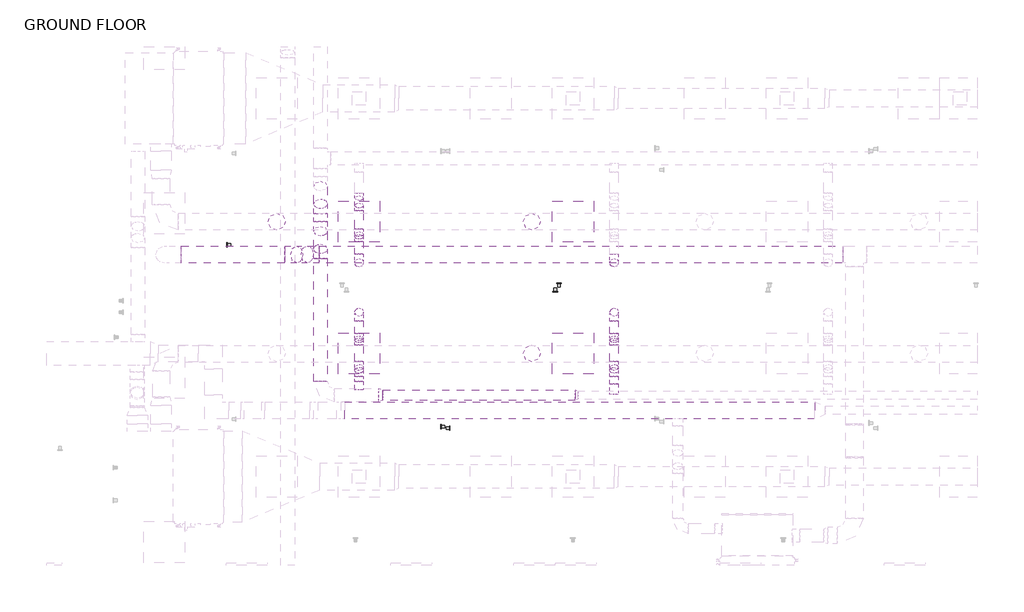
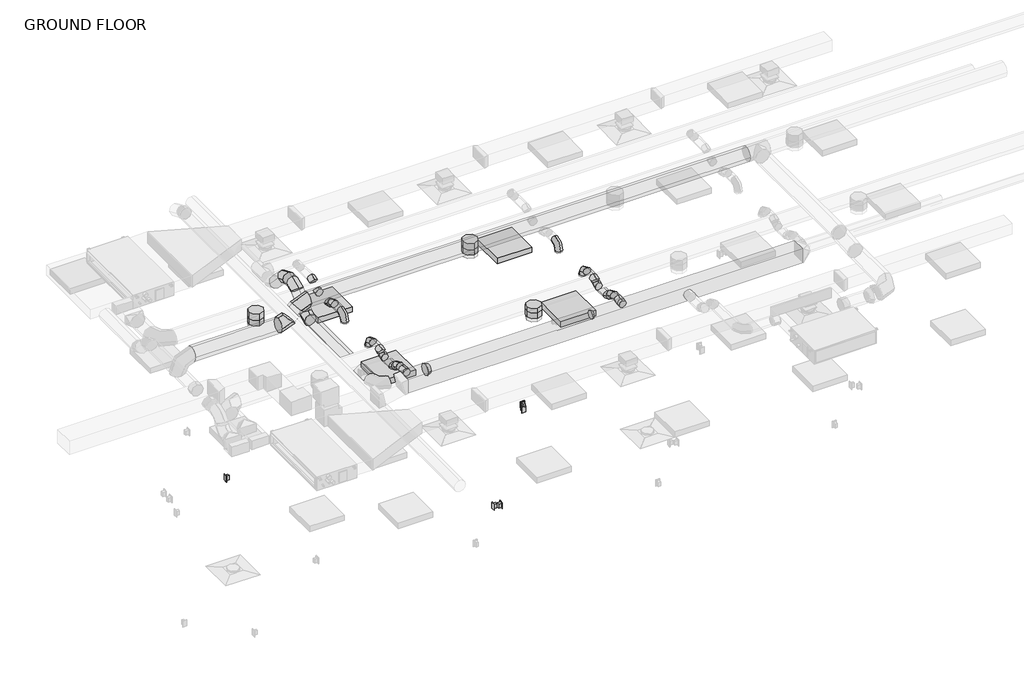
# One storey, part 3 of 21: 30 duct segments, 28 duct fittings, 5 proxies, 4 light fixtures.
"""IFC4 building model written with IfcOpenShell, lengths in millimetres."""

from ifc_helpers import new_model, si_unit, point, frame, frame_2d, origin, place, context, project, spatial, polyline, circle_curve, trimmed, segment, composite_curve, outline, extrude, transform, mapped, element, save
from components import duplex_receptacle_countertop_10251bba, round_elbow_1_d_c80420c1, round_elbow_1_d_ab3aa7ba, round_elbow_1_d_e3dc691b, round_elbow_1_d_ea3dccb8, round_elbow_1_d_538d8ec8, round_elbow_1_d_400cd2ab, round_elbow_1_d_88736f48, round_elbow_1_d_3f34665d, round_takeoff_standard_161717b3, round_takeoff_standard_c386a54e, round_takeoff_standard_86d024ab, round_takeoff_standard_cae0fe22, round_transition_angle_45_degree_f2e0231c, round_transition_angle_45_degree_d2c7fbb0, troffer_corner_insert_2x2_3lamp_e67c7f8f

model = new_model("IFC4")

# Units and contexts
model_context = context("Model", 3, world=origin())
ifc_project = project(units=[si_unit("LENGTHUNIT", "METRE", prefix="MILLI")], contexts=[model_context])

# Site, building, storey
site = spatial("IfcSite", under=ifc_project)
building = spatial("IfcBuilding", under=site)
storey = spatial("IfcBuildingStorey", under=building, Name="GROUND FLOOR", Elevation=30480.0)

# Proxies
placement = place(None, origin())
duplex_receptacle_countertop_shape = duplex_receptacle_countertop_10251bba(model_context)
element("IfcBuildingElementProxy", 1, Name="Duplex Receptacle : Standard", ObjectType="Duplex Receptacle : Standard", at=placement, inside=storey, context=model_context, shape_type="MappedRepresentation", body=[
    mapped(duplex_receptacle_countertop_shape, transform((-2751.7704607, -3487.800279, 30937.2), x_axis=(0.0, -1.0, 0.0), y_axis=(0.0, 0.0, 1.0), z_axis=(-1.0, 0.0, 0.0))),
])
element("IfcBuildingElementProxy", 2, Name="Duplex Receptacle : Standard", ObjectType="Duplex Receptacle : Standard", at=placement, inside=storey, context=model_context, shape_type="MappedRepresentation", body=[
    mapped(duplex_receptacle_countertop_shape, transform((-2627.9454607, -3509.8392868, 30937.2), x_axis=(0.0, 1.0, 0.0), y_axis=(0.0, 0.0, 1.0), z_axis=(1.0, 0.0, 0.0))),
])
element("IfcBuildingElementProxy", 3, Name="Duplex Receptacle : Standard", ObjectType="Duplex Receptacle : Standard", at=placement, inside=storey, context=model_context, shape_type="MappedRepresentation", body=[
    mapped(duplex_receptacle_countertop_shape, transform((-1062.3593132, -1484.9054995, 30937.2), x_axis=(1.0, 0.0, 0.0), y_axis=(0.0, 0.0, 1.0), z_axis=(0.0, -1.0, 0.0))),
])
element("IfcBuildingElementProxy", 4, Name="Duplex Receptacle : Standard", ObjectType="Duplex Receptacle : Standard", at=placement, inside=storey, context=model_context, shape_type="MappedRepresentation", body=[
    mapped(duplex_receptacle_countertop_shape, transform((-1007.2617938, -1361.0804995, 30937.2), x_axis=(-1.0, 0.0, 0.0), y_axis=(0.0, 0.0, 1.0), z_axis=(0.0, 1.0, 0.0))),
])
element("IfcBuildingElementProxy", 5, Name="Duplex Receptacle : Standard", ObjectType="Duplex Receptacle : Standard", at=placement, inside=storey, context=model_context, shape_type="MappedRepresentation", body=[
    mapped(duplex_receptacle_countertop_shape, transform((-5923.5954607, -788.0218283, 30937.2), x_axis=(0.0, -1.0, 0.0), y_axis=(0.0, 0.0, 1.0), z_axis=(-1.0, 0.0, 0.0))),
])

# Duct fittings
round_elbow_1_d_shape = round_elbow_1_d_c80420c1(model_context)
element("IfcDuctFitting", 6, ObjectType="Round Elbow : 1 D", at=placement, inside=storey, context=model_context, shape_type="MappedRepresentation", body=[
    mapped(round_elbow_1_d_shape, transform((-3970.9704607, -1056.2804995, 33477.2), x_axis=(0.0, -1.0, 0.0), y_axis=(0.0, 0.0, -1.0), z_axis=(1.0, 0.0, 0.0))),
])
element("IfcDuctFitting", 7, ObjectType="Round Elbow : 1 D", at=placement, inside=storey, context=model_context, shape_type="MappedRepresentation", body=[
    mapped(round_elbow_1_d_shape, transform((-189.5454607, -1056.2804995, 33477.2), x_axis=(0.0, -1.0, 0.0), y_axis=(0.0, 0.0, -1.0), z_axis=(1.0, 0.0, 0.0))),
])
round_elbow_1_d_2_shape = round_elbow_1_d_ab3aa7ba(model_context)
element("IfcDuctFitting", 8, ObjectType="Round Elbow : 1 D", at=placement, inside=storey, context=model_context, shape_type="MappedRepresentation", body=[
    mapped(round_elbow_1_d_2_shape, transform((-4541.976464, -909.8231584, 33528.0), x_axis=(0.0, 1.0, 0.0), y_axis=(0.0, 0.0, 1.0), z_axis=(1.0, 0.0, 0.0))),
])
element("IfcDuctFitting", 9, ObjectType="Round Elbow : 1 D", at=placement, inside=storey, context=model_context, shape_type="MappedRepresentation", body=[
    mapped(round_elbow_1_d_2_shape, transform((-4541.976464, -528.8231584, 33909.0), x_axis=(0.0, 0.7071067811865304, 0.7071067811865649), y_axis=(0.0, 0.7071067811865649, -0.7071067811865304), z_axis=(-1.0, 0.0, 0.0))),
])
round_elbow_1_d_3_shape = round_elbow_1_d_e3dc691b(model_context)
element("IfcDuctFitting", 10, ObjectType="Round Elbow : 1 D", at=placement, inside=storey, context=model_context, shape_type="MappedRepresentation", body=[
    mapped(round_elbow_1_d_3_shape, transform((-3970.9704607, -2688.8145579, 33528.0), x_axis=(0.0, 1.0, 0.0), y_axis=(0.0, 0.0, -1.0), z_axis=(-1.0, 0.0, 0.0))),
])
element("IfcDuctFitting", 11, ObjectType="Round Elbow : 1 D", at=placement, inside=storey, context=model_context, shape_type="MappedRepresentation", body=[
    mapped(round_elbow_1_d_3_shape, transform((-3970.9704607, -2571.0260053, 33410.2114474), x_axis=(0.0, 0.7071067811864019, -0.7071067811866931), y_axis=(0.0, 0.7071067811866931, 0.7071067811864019), z_axis=(1.0, 0.0, 0.0))),
])
element("IfcDuctFitting", 12, ObjectType="Round Elbow : 1 D", at=placement, inside=storey, context=model_context, shape_type="MappedRepresentation", body=[
    mapped(round_elbow_1_d_3_shape, transform((-189.5454607, -2571.0260053, 33410.2114474), x_axis=(0.0, 0.7071067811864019, -0.7071067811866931), y_axis=(0.0, 0.7071067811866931, 0.7071067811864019), z_axis=(1.0, 0.0, 0.0))),
])
element("IfcDuctFitting", 13, ObjectType="Round Elbow : 1 D", at=placement, inside=storey, context=model_context, shape_type="MappedRepresentation", body=[
    mapped(round_elbow_1_d_3_shape, transform((-189.5454607, -2688.8145579, 33528.0), x_axis=(0.0, -0.707106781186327, 0.7071067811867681), y_axis=(0.0, -0.7071067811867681, -0.707106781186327), z_axis=(1.0, 0.0, 0.0))),
])
round_elbow_1_d_4_shape = round_elbow_1_d_ea3dccb8(model_context)
element("IfcDuctFitting", 14, ObjectType="Round Elbow : 1 D", at=placement, inside=storey, context=model_context, shape_type="MappedRepresentation", body=[
    mapped(round_elbow_1_d_4_shape, transform((-4664.8198591, -932.4554995, 33883.6), x_axis=(-1.0, 0.0, 0.0), y_axis=(0.0, 0.0, -1.0), z_axis=(0.0, -1.0, 0.0))),
])
element("IfcDuctFitting", 15, ObjectType="Round Elbow : 1 D", at=placement, inside=storey, context=model_context, shape_type="MappedRepresentation", body=[
    mapped(round_elbow_1_d_4_shape, transform((-4969.6198591, -932.4554995, 33578.8), x_axis=(-0.7071067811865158, 0.0, -0.7071067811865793), y_axis=(-0.7071067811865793, 0.0, 0.7071067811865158), z_axis=(0.0, 1.0, 0.0))),
])
round_elbow_1_d_5_shape = round_elbow_1_d_538d8ec8(model_context)
element("IfcDuctFitting", 16, ObjectType="Round Elbow : 1 D", at=placement, inside=storey, context=model_context, shape_type="MappedRepresentation", body=[
    mapped(round_elbow_1_d_5_shape, transform((-3970.9704607, -703.4357216, 33477.2), x_axis=(0.0, 1.0, 0.0), y_axis=(0.0, 0.0, -1.0), z_axis=(-1.0, 0.0, 0.0))),
])
element("IfcDuctFitting", 17, ObjectType="Round Elbow : 1 D", at=placement, inside=storey, context=model_context, shape_type="MappedRepresentation", body=[
    mapped(round_elbow_1_d_5_shape, transform((-3970.9704607, -599.403412, 33404.3557926), x_axis=(0.0, 0.8191520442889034, -0.5735764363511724), y_axis=(0.0, 0.5735764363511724, 0.8191520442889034), z_axis=(1.0, 0.0, 0.0))),
])
element("IfcDuctFitting", 18, ObjectType="Round Elbow : 1 D", at=placement, inside=storey, context=model_context, shape_type="MappedRepresentation", body=[
    mapped(round_elbow_1_d_5_shape, transform((-3970.9704607, -240.3054995, 33404.3557926), x_axis=(0.0, 1.0, 0.0), y_axis=(0.0, 0.0, 1.0), z_axis=(1.0, 0.0, 0.0))),
])
element("IfcDuctFitting", 19, ObjectType="Round Elbow : 1 D", at=placement, inside=storey, context=model_context, shape_type="MappedRepresentation", body=[
    mapped(round_elbow_1_d_5_shape, transform((-3970.9704607, -2238.2198452, 33410.2114474), x_axis=(0.0, -0.8191520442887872, -0.5735764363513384), y_axis=(0.0, -0.5735764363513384, 0.8191520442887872), z_axis=(-1.0, 0.0, 0.0))),
])
element("IfcDuctFitting", 20, ObjectType="Round Elbow : 1 D", at=placement, inside=storey, context=model_context, shape_type="MappedRepresentation", body=[
    mapped(round_elbow_1_d_5_shape, transform((-3970.9704607, -63.7232711, 33528.0), x_axis=(0.0, 0.8191520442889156, 0.5735764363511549), y_axis=(0.0, 0.5735764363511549, -0.8191520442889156), z_axis=(-1.0, 0.0, 0.0))),
])
element("IfcDuctFitting", 21, ObjectType="Round Elbow : 1 D", at=placement, inside=storey, context=model_context, shape_type="MappedRepresentation", body=[
    mapped(round_elbow_1_d_5_shape, transform((-189.5454607, -2238.2198452, 33410.2114474), x_axis=(0.0, -0.8191520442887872, -0.5735764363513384), y_axis=(0.0, -0.5735764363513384, 0.8191520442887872), z_axis=(-1.0, 0.0, 0.0))),
])
round_elbow_1_d_6_shape = round_elbow_1_d_400cd2ab(model_context)
element("IfcDuctFitting", 22, ObjectType="Round Elbow : 1 D", at=placement, inside=storey, context=model_context, shape_type="MappedRepresentation", body=[
    mapped(round_elbow_1_d_6_shape, transform((-3970.9704607, -1789.7054995, 33477.2), x_axis=(0.0, 1.0, 0.0), y_axis=(0.0, 0.0, 1.0), z_axis=(1.0, 0.0, 0.0))),
])
element("IfcDuctFitting", 23, ObjectType="Round Elbow : 1 D", at=placement, inside=storey, context=model_context, shape_type="MappedRepresentation", body=[
    mapped(round_elbow_1_d_6_shape, transform((-189.5454607, -1789.7054995, 33477.2), x_axis=(0.0, 1.0, 0.0), y_axis=(0.0, 0.0, 1.0), z_axis=(1.0, 0.0, 0.0))),
])
round_elbow_1_d_7_shape = round_elbow_1_d_88736f48(model_context)
element("IfcDuctFitting", 24, ObjectType="Round Elbow : 1 D", at=placement, inside=storey, context=model_context, shape_type="MappedRepresentation", body=[
    mapped(round_elbow_1_d_7_shape, transform((-3970.9704607, -2142.5502773, 33477.2), x_axis=(0.0, -1.0, 0.0), y_axis=(0.0, 0.0, 1.0), z_axis=(-1.0, 0.0, 0.0))),
])
element("IfcDuctFitting", 25, ObjectType="Round Elbow : 1 D", at=placement, inside=storey, context=model_context, shape_type="MappedRepresentation", body=[
    mapped(round_elbow_1_d_7_shape, transform((-189.5454607, -2142.5502773, 33477.2), x_axis=(0.0, -1.0, 0.0), y_axis=(0.0, 0.0, 1.0), z_axis=(-1.0, 0.0, 0.0))),
])
round_elbow_1_d_8_shape = round_elbow_1_d_3f34665d(model_context)
element("IfcDuctFitting", 26, ObjectType="Round Elbow : 1 D", at=placement, inside=storey, context=model_context, shape_type="MappedRepresentation", body=[
    mapped(round_elbow_1_d_8_shape, transform((-4541.976464, -241.4549626, 33909.0), x_axis=(0.0, -0.7071067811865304, 0.7071067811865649), y_axis=(0.0, 0.7071067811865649, 0.7071067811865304), z_axis=(-1.0, 0.0, 0.0))),
])
round_takeoff_standard_shape = round_takeoff_standard_161717b3(model_context)
element("IfcDuctFitting", 27, ObjectType="Round Takeoff : Standard", at=placement, inside=storey, context=model_context, shape_type="MappedRepresentation", body=[
    mapped(round_takeoff_standard_shape, transform((-1408.7454607, -2399.3054995, 33490.69375), x_axis=(0.0, 0.0, -1.0), y_axis=(-1.0, 0.0, 0.0), z_axis=(0.0, 1.0, 0.0))),
])
round_takeoff_standard_2_shape = round_takeoff_standard_c386a54e(model_context)
element("IfcDuctFitting", 28, ObjectType="Round Takeoff : Standard", at=placement, inside=storey, context=model_context, shape_type="MappedRepresentation", body=[
    mapped(round_takeoff_standard_2_shape, transform((-1408.7454607, -446.6804995, 33490.69375), x_axis=(0.0, 0.0, -1.0), y_axis=(-1.0, 0.0, 0.0), z_axis=(0.0, 1.0, 0.0))),
])
element("IfcDuctFitting", 29, ObjectType="Round Takeoff : Standard", at=placement, inside=storey, context=model_context, shape_type="MappedRepresentation", body=[
    mapped(round_takeoff_standard_2_shape, transform((-5190.1704607, -446.6804995, 33490.69375), x_axis=(0.0, 0.0, -1.0), y_axis=(-1.0, 0.0, 0.0), z_axis=(0.0, 1.0, 0.0))),
])
round_takeoff_standard_3_shape = round_takeoff_standard_86d024ab(model_context)
element("IfcDuctFitting", 30, ObjectType="Round Takeoff : Standard", at=placement, inside=storey, context=model_context, shape_type="MappedRepresentation", body=[
    mapped(round_takeoff_standard_3_shape, transform((-3970.9704607, -2917.4145579, 33528.0), x_axis=(0.0, 1.0, 0.0), y_axis=(1.0, 0.0, 0.0), z_axis=(0.0, 0.0, -1.0))),
])
round_takeoff_standard_4_shape = round_takeoff_standard_cae0fe22(model_context)
element("IfcDuctFitting", 31, ObjectType="Round Takeoff : Standard", at=placement, inside=storey, context=model_context, shape_type="MappedRepresentation", body=[
    mapped(round_takeoff_standard_4_shape, transform((-189.5454607, -2955.5145579, 33528.0), x_axis=(0.0, 1.0, 0.0), y_axis=(1.0, 0.0, 0.0), z_axis=(0.0, 0.0, -1.0))),
])
round_transition_angle_45_degree_shape = round_transition_angle_45_degree_f2e0231c(model_context)
element("IfcDuctFitting", 32, ObjectType="Round Transition - Angle : 45 Degree", at=placement, inside=storey, context=model_context, shape_type="MappedRepresentation", body=[
    mapped(round_transition_angle_45_degree_shape, transform((-731.976464, -3019.0145579, 33528.0), x_axis=(-1.0, 0.0, 0.0), y_axis=(0.0, -1.0, 0.0), z_axis=(0.0, 0.0, 1.0))),
])
round_transition_angle_45_degree_2_shape = round_transition_angle_45_degree_d2c7fbb0(model_context)
element("IfcDuctFitting", 33, ObjectType="Round Transition - Angle : 45 Degree", at=placement, inside=storey, context=model_context, shape_type="MappedRepresentation", body=[
    mapped(round_transition_angle_45_degree_2_shape, transform((-3681.8784098, -3019.0145579, 33528.0), x_axis=(1.0, 0.0, 0.0), y_axis=(0.0, 1.0, 0.0), z_axis=(0.0, 0.0, 1.0))),
])

# Duct segments
element("IfcDuctSegment", 34, ObjectType="Radius Elbows / Taps", at=placement, inside=storey, context=model_context, shape_type="SweptSolid", body=[
    extrude(outline(polyline([(2787.255189, -3118.6216457), (2787.255189, -3372.6216457), (-4184.5880259, -3372.6216457), (-4184.5880259, -3118.6216457), (2787.255189, -3118.6216457)])), frame((0.0, 0.0, 33475.867541), z_axis=(0.0, 0.0, 1.0), x_axis=(1.0, 0.0, 0.0)), (0.0, 0.0, 1.0), 254.0),
])
element("IfcDuctSegment", 35, ObjectType="Taps / Short Radius", at=placement, inside=storey, context=model_context, shape_type="SweptSolid", body=[
    extrude(outline(composite_curve([segment(trimmed(circle_curve(frame_2d((-932.4554995, 33883.6)), 127.0), [point((-805.4554995, 33883.6))], [point((-932.4554995, 33756.6))], False, "CARTESIAN"), True, "CONTINUOUS"), segment(trimmed(circle_curve(frame_2d((-932.4554995, 33883.6)), 127.0), [point((-932.4554995, 33756.6))], [point((-1059.4554995, 33883.6))], False, "CARTESIAN"), True, "CONTINUOUS"), segment(trimmed(circle_curve(frame_2d((-932.4554995, 33883.6)), 127.0), [point((-1059.4554995, 33883.6))], [point((-932.4554995, 34010.6))], False, "CARTESIAN"), True, "CONTINUOUS"), segment(trimmed(circle_curve(frame_2d((-932.4554995, 33883.6)), 127.0), [point((-932.4554995, 34010.6))], [point((-805.4554995, 33883.6))], False, "CARTESIAN"), True, "CONTINUOUS")], self_intersect=False)), frame((-4559.6096142, 0.0, 0.0), z_axis=(1.0, 0.0, 0.0), x_axis=(0.0, 1.0, 0.0)), (0.0, 0.0, 1.0), 7755.0178177),
])
element("IfcDuctSegment", 36, ObjectType="Taps / Short Radius", at=placement, inside=storey, context=model_context, shape_type="SweptSolid", body=[
    extrude(outline(composite_curve([segment(trimmed(circle_curve(frame_2d((-932.4554995, 33578.8)), 127.0), [point((-805.4554995, 33578.8))], [point((-932.4554995, 33451.8))], False, "CARTESIAN"), True, "CONTINUOUS"), segment(trimmed(circle_curve(frame_2d((-932.4554995, 33578.8)), 127.0), [point((-932.4554995, 33451.8))], [point((-1059.4554995, 33578.8))], False, "CARTESIAN"), True, "CONTINUOUS"), segment(trimmed(circle_curve(frame_2d((-932.4554995, 33578.8)), 127.0), [point((-1059.4554995, 33578.8))], [point((-932.4554995, 33705.8))], False, "CARTESIAN"), True, "CONTINUOUS"), segment(trimmed(circle_curve(frame_2d((-932.4554995, 33578.8)), 127.0), [point((-932.4554995, 33705.8))], [point((-805.4554995, 33578.8))], False, "CARTESIAN"), True, "CONTINUOUS")], self_intersect=False)), frame((-6603.0454607, 0.0, 0.0), z_axis=(1.0, 0.0, 0.0), x_axis=(0.0, 1.0, 0.0)), (0.0, 0.0, 1.0), 1528.2153568),
])
element("IfcDuctSegment", 37, ObjectType="Taps / Short Radius", at=placement, inside=storey, context=model_context, shape_type="SweptSolid", body=[
    extrude(outline(composite_curve([segment(trimmed(circle_curve(frame_2d((0.0, -127.0)), 127.0), [point((0.0, 0.0))], [point((127.0, -127.0))], False, "CARTESIAN"), True, "CONTINUOUS"), segment(trimmed(circle_curve(frame_2d((0.0, -127.0)), 127.0), [point((127.0, -127.0))], [point((0.0, -254.0))], False, "CARTESIAN"), True, "CONTINUOUS"), segment(trimmed(circle_curve(frame_2d((0.0, -127.0)), 127.0), [point((0.0, -254.0))], [point((-127.0, -127.0))], False, "CARTESIAN"), True, "CONTINUOUS"), segment(trimmed(circle_curve(frame_2d((0.0, -127.0)), 127.0), [point((-127.0, -127.0))], [point((0.0, 0.0))], False, "CARTESIAN"), True, "CONTINUOUS")], self_intersect=False)), frame((-4895.2249815, -805.4554995, 33653.1948776), z_axis=(0.7071067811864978, 0.0, 0.7071067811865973), x_axis=(0.7071067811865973, 0.0, -0.7071067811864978)), (0.0, 0.0, 1.0), 220.6318041),
])
element("IfcDuctSegment", 38, ObjectType="Taps / Short Radius", at=placement, inside=storey, context=model_context, shape_type="SweptSolid", body=[
    extrude(outline(composite_curve([segment(trimmed(circle_curve(frame_2d((-1408.7454607, -2399.3054995)), 127.0), [point((-1535.7454607, -2399.3054995))], [point((-1408.7454607, -2272.3054995))], False, "CARTESIAN"), True, "CONTINUOUS"), segment(trimmed(circle_curve(frame_2d((-1408.7454607, -2399.3054995)), 127.0), [point((-1408.7454607, -2272.3054995))], [point((-1281.7454607, -2399.3054995))], False, "CARTESIAN"), True, "CONTINUOUS"), segment(trimmed(circle_curve(frame_2d((-1408.7454607, -2399.3054995)), 127.0), [point((-1281.7454607, -2399.3054995))], [point((-1408.7454607, -2526.3054995))], False, "CARTESIAN"), True, "CONTINUOUS"), segment(trimmed(circle_curve(frame_2d((-1408.7454607, -2399.3054995)), 127.0), [point((-1408.7454607, -2526.3054995))], [point((-1535.7454607, -2399.3054995))], False, "CARTESIAN"), True, "CONTINUOUS")], self_intersect=False)), frame((0.0, 0.0, 33324.8), z_axis=(0.0, 0.0, 1.0), x_axis=(1.0, 0.0, 0.0)), (0.0, 0.0, 1.0), 64.29375),
])
element("IfcDuctSegment", 39, ObjectType="Taps / Short Radius", at=placement, inside=storey, context=model_context, shape_type="SweptSolid", body=[
    extrude(outline(composite_curve([segment(trimmed(circle_curve(frame_2d((-1408.7454607, -446.6804995)), 127.0), [point((-1535.7454607, -446.6804995))], [point((-1408.7454607, -319.6804995))], False, "CARTESIAN"), True, "CONTINUOUS"), segment(trimmed(circle_curve(frame_2d((-1408.7454607, -446.6804995)), 127.0), [point((-1408.7454607, -319.6804995))], [point((-1281.7454607, -446.6804995))], False, "CARTESIAN"), True, "CONTINUOUS"), segment(trimmed(circle_curve(frame_2d((-1408.7454607, -446.6804995)), 127.0), [point((-1281.7454607, -446.6804995))], [point((-1408.7454607, -573.6804995))], False, "CARTESIAN"), True, "CONTINUOUS"), segment(trimmed(circle_curve(frame_2d((-1408.7454607, -446.6804995)), 127.0), [point((-1408.7454607, -573.6804995))], [point((-1535.7454607, -446.6804995))], False, "CARTESIAN"), True, "CONTINUOUS")], self_intersect=False)), frame((0.0, 0.0, 33324.8), z_axis=(0.0, 0.0, 1.0), x_axis=(1.0, 0.0, 0.0)), (0.0, 0.0, 1.0), 64.29375),
])
element("IfcDuctSegment", 40, ObjectType="Taps / Short Radius", at=placement, inside=storey, context=model_context, shape_type="SweptSolid", body=[
    extrude(outline(composite_curve([segment(trimmed(circle_curve(frame_2d((-5190.1704607, -446.6804995)), 127.0), [point((-5317.1704607, -446.6804995))], [point((-5190.1704607, -319.6804995))], False, "CARTESIAN"), True, "CONTINUOUS"), segment(trimmed(circle_curve(frame_2d((-5190.1704607, -446.6804995)), 127.0), [point((-5190.1704607, -319.6804995))], [point((-5063.1704607, -446.6804995))], False, "CARTESIAN"), True, "CONTINUOUS"), segment(trimmed(circle_curve(frame_2d((-5190.1704607, -446.6804995)), 127.0), [point((-5063.1704607, -446.6804995))], [point((-5190.1704607, -573.6804995))], False, "CARTESIAN"), True, "CONTINUOUS"), segment(trimmed(circle_curve(frame_2d((-5190.1704607, -446.6804995)), 127.0), [point((-5190.1704607, -573.6804995))], [point((-5317.1704607, -446.6804995))], False, "CARTESIAN"), True, "CONTINUOUS")], self_intersect=False)), frame((0.0, 0.0, 33324.8), z_axis=(0.0, 0.0, 1.0), x_axis=(1.0, 0.0, 0.0)), (0.0, 0.0, 1.0), 64.29375),
])
element("IfcDuctSegment", 41, ObjectType="Taps / Short Radius", at=placement, inside=storey, context=model_context, shape_type="SweptSolid", body=[
    extrude(outline(composite_curve([segment(trimmed(circle_curve(frame_2d((-3970.9704607, -1056.2804995)), 63.5), [point((-4034.4704607, -1056.2804995))], [point((-3970.9704607, -992.7804995))], False, "CARTESIAN"), True, "CONTINUOUS"), segment(trimmed(circle_curve(frame_2d((-3970.9704607, -1056.2804995)), 63.5), [point((-3970.9704607, -992.7804995))], [point((-3907.4704607, -1056.2804995))], False, "CARTESIAN"), True, "CONTINUOUS"), segment(trimmed(circle_curve(frame_2d((-3970.9704607, -1056.2804995)), 63.5), [point((-3907.4704607, -1056.2804995))], [point((-3970.9704607, -1119.7804995))], False, "CARTESIAN"), True, "CONTINUOUS"), segment(trimmed(circle_curve(frame_2d((-3970.9704607, -1056.2804995)), 63.5), [point((-3970.9704607, -1119.7804995))], [point((-4034.4704607, -1056.2804995))], False, "CARTESIAN"), True, "CONTINUOUS")], self_intersect=False)), frame((0.0, 0.0, 33324.8), z_axis=(0.0, 0.0, 1.0), x_axis=(1.0, 0.0, 0.0)), (0.0, 0.0, 1.0), 25.4),
])
element("IfcDuctSegment", 42, ObjectType="Taps / Short Radius", at=placement, inside=storey, context=model_context, shape_type="SweptSolid", body=[
    extrude(outline(composite_curve([segment(trimmed(circle_curve(frame_2d((-3019.0145579, 33528.0)), 76.2), [point((-2942.8145579, 33528.0))], [point((-3019.0145579, 33451.8))], False, "CARTESIAN"), True, "CONTINUOUS"), segment(trimmed(circle_curve(frame_2d((-3019.0145579, 33528.0)), 76.2), [point((-3019.0145579, 33451.8))], [point((-3095.2145579, 33528.0))], False, "CARTESIAN"), True, "CONTINUOUS"), segment(trimmed(circle_curve(frame_2d((-3019.0145579, 33528.0)), 76.2), [point((-3095.2145579, 33528.0))], [point((-3019.0145579, 33604.2))], False, "CARTESIAN"), True, "CONTINUOUS"), segment(trimmed(circle_curve(frame_2d((-3019.0145579, 33528.0)), 76.2), [point((-3019.0145579, 33604.2))], [point((-2942.8145579, 33528.0))], False, "CARTESIAN"), True, "CONTINUOUS")], self_intersect=False)), frame((-3620.5573854, 0.0, 0.0), z_axis=(1.0, 0.0, 0.0), x_axis=(0.0, 1.0, 0.0)), (0.0, 0.0, 1.0), 2857.9204091),
])
element("IfcDuctSegment", 43, ObjectType="Taps / Short Radius", at=placement, inside=storey, context=model_context, shape_type="SweptSolid", body=[
    extrude(outline(composite_curve([segment(trimmed(circle_curve(frame_2d((33528.0, -4541.976464)), 101.6), [point((33528.0, -4440.376464))], [point((33629.6, -4541.976464))], False, "CARTESIAN"), True, "CONTINUOUS"), segment(trimmed(circle_curve(frame_2d((33528.0, -4541.976464)), 101.6), [point((33629.6, -4541.976464))], [point((33528.0, -4643.576464))], False, "CARTESIAN"), True, "CONTINUOUS"), segment(trimmed(circle_curve(frame_2d((33528.0, -4541.976464)), 101.6), [point((33528.0, -4643.576464))], [point((33426.4, -4541.976464))], False, "CARTESIAN"), True, "CONTINUOUS"), segment(trimmed(circle_curve(frame_2d((33528.0, -4541.976464)), 101.6), [point((33426.4, -4541.976464))], [point((33528.0, -4440.376464))], False, "CARTESIAN"), True, "CONTINUOUS")], self_intersect=False)), frame((0.0, -2815.8145579, 0.0), z_axis=(0.0, 1.0, 0.0), x_axis=(0.0, 0.0, 1.0)), (0.0, 0.0, 1.0), 1821.8232036),
])
element("IfcDuctSegment", 44, ObjectType="Taps / Short Radius", at=placement, inside=storey, context=model_context, shape_type="SweptSolid", body=[
    extrude(outline(composite_curve([segment(trimmed(circle_curve(frame_2d((33909.0, -4541.976464)), 101.6), [point((33909.0, -4440.376464))], [point((34010.6, -4541.976464))], False, "CARTESIAN"), True, "CONTINUOUS"), segment(trimmed(circle_curve(frame_2d((33909.0, -4541.976464)), 101.6), [point((34010.6, -4541.976464))], [point((33909.0, -4643.576464))], False, "CARTESIAN"), True, "CONTINUOUS"), segment(trimmed(circle_curve(frame_2d((33909.0, -4541.976464)), 101.6), [point((33909.0, -4643.576464))], [point((33807.4, -4541.976464))], False, "CARTESIAN"), True, "CONTINUOUS"), segment(trimmed(circle_curve(frame_2d((33909.0, -4541.976464)), 101.6), [point((33807.4, -4541.976464))], [point((33909.0, -4440.376464))], False, "CARTESIAN"), True, "CONTINUOUS")], self_intersect=False)), frame((0.0, -444.6549626, 0.0), z_axis=(0.0, 1.0, 0.0), x_axis=(0.0, 0.0, 1.0)), (0.0, 0.0, 1.0), 119.0318041),
])
element("IfcDuctSegment", 45, ObjectType="Taps / Short Radius", at=placement, inside=storey, context=model_context, shape_type="SweptSolid", body=[
    extrude(outline(composite_curve([segment(trimmed(circle_curve(frame_2d((0.0, 101.5999999)), 101.6), [point((101.6, 101.5999999))], [point((0.0, 0.0))], False, "CARTESIAN"), True, "CONTINUOUS"), segment(trimmed(circle_curve(frame_2d((0.0, 101.5999999)), 101.6), [point((0.0, 0.0))], [point((-101.6, 101.5999999))], False, "CARTESIAN"), True, "CONTINUOUS"), segment(trimmed(circle_curve(frame_2d((0.0, 101.5999999)), 101.6), [point((-101.6, 101.5999999))], [point((0.0, 203.1999999))], False, "CARTESIAN"), True, "CONTINUOUS"), segment(trimmed(circle_curve(frame_2d((0.0, 101.5999999)), 101.6), [point((0.0, 203.1999999))], [point((101.6, 101.5999999))], False, "CARTESIAN"), True, "CONTINUOUS")], self_intersect=False)), frame((-4541.976464, -922.1493053, 33659.357951), z_axis=(0.0, 0.7071067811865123, 0.7071067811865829), x_axis=(1.0, 0.0, 0.0)), (0.0, 0.0, 1.0), 370.4789755),
])
element("IfcDuctSegment", 46, ObjectType="Taps / Short Radius", at=placement, inside=storey, context=model_context, shape_type="SweptSolid", body=[
    extrude(outline(composite_curve([segment(trimmed(circle_curve(frame_2d((33477.2, -3970.9704607)), 63.5), [point((33477.2, -3907.4704607))], [point((33540.7, -3970.9704607))], False, "CARTESIAN"), True, "CONTINUOUS"), segment(trimmed(circle_curve(frame_2d((33477.2, -3970.9704607)), 63.5), [point((33540.7, -3970.9704607))], [point((33477.2, -4034.4704607))], False, "CARTESIAN"), True, "CONTINUOUS"), segment(trimmed(circle_curve(frame_2d((33477.2, -3970.9704607)), 63.5), [point((33477.2, -4034.4704607))], [point((33413.7, -3970.9704607))], False, "CARTESIAN"), True, "CONTINUOUS"), segment(trimmed(circle_curve(frame_2d((33477.2, -3970.9704607)), 63.5), [point((33413.7, -3970.9704607))], [point((33477.2, -3907.4704607))], False, "CARTESIAN"), True, "CONTINUOUS")], self_intersect=False)), frame((0.0, -929.2804995, 0.0), z_axis=(0.0, 1.0, 0.0), x_axis=(0.0, 0.0, 1.0)), (0.0, 0.0, 1.0), 185.8018317),
])
element("IfcDuctSegment", 47, ObjectType="Taps / Short Radius", at=placement, inside=storey, context=model_context, shape_type="SweptSolid", body=[
    extrude(outline(composite_curve([segment(trimmed(circle_curve(frame_2d((0.0, -63.5)), 63.5), [point((63.5, -63.5))], [point((0.0, -127.0000001))], False, "CARTESIAN"), True, "CONTINUOUS"), segment(trimmed(circle_curve(frame_2d((0.0, -63.5)), 63.5), [point((0.0, -127.0000001))], [point((-63.5, -63.5))], False, "CARTESIAN"), True, "CONTINUOUS"), segment(trimmed(circle_curve(frame_2d((0.0, -63.5)), 63.5), [point((-63.5, -63.5))], [point((0.0, 0.0))], False, "CARTESIAN"), True, "CONTINUOUS"), segment(trimmed(circle_curve(frame_2d((0.0, -63.5)), 63.5), [point((0.0, 0.0))], [point((63.5, -63.5))], False, "CARTESIAN"), True, "CONTINUOUS")], self_intersect=False)), frame((-3970.9704607, -595.7825695, 33479.3396378), z_axis=(0.0, -0.8191520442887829, 0.5735764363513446), x_axis=(1.0, 0.0, 0.0)), (0.0, 0.0, 1.0), 46.9141076),
])
element("IfcDuctSegment", 48, ObjectType="Taps / Short Radius", at=placement, inside=storey, context=model_context, shape_type="SweptSolid", body=[
    extrude(outline(composite_curve([segment(trimmed(circle_curve(frame_2d((33404.3557926, -3970.9704607)), 63.5), [point((33404.3557926, -3907.4704607))], [point((33467.8557926, -3970.9704607))], False, "CARTESIAN"), True, "CONTINUOUS"), segment(trimmed(circle_curve(frame_2d((33404.3557926, -3970.9704607)), 63.5), [point((33467.8557926, -3970.9704607))], [point((33404.3557926, -4034.4704607))], False, "CARTESIAN"), True, "CONTINUOUS"), segment(trimmed(circle_curve(frame_2d((33404.3557926, -3970.9704607)), 63.5), [point((33404.3557926, -4034.4704607))], [point((33340.8557926, -3970.9704607))], False, "CARTESIAN"), True, "CONTINUOUS"), segment(trimmed(circle_curve(frame_2d((33404.3557926, -3970.9704607)), 63.5), [point((33340.8557926, -3970.9704607))], [point((33404.3557926, -3907.4704607))], False, "CARTESIAN"), True, "CONTINUOUS")], self_intersect=False)), frame((0.0, -559.3604658, 0.0), z_axis=(0.0, 1.0, 0.0), x_axis=(0.0, 0.0, 1.0)), (0.0, 0.0, 1.0), 279.0120202),
])
element("IfcDuctSegment", 49, ObjectType="Taps / Short Radius", at=placement, inside=storey, context=model_context, shape_type="SweptSolid", body=[
    extrude(outline(composite_curve([segment(trimmed(circle_curve(frame_2d((0.0, 63.5)), 63.5), [point((63.5, 63.5))], [point((0.0, 0.0))], False, "CARTESIAN"), True, "CONTINUOUS"), segment(trimmed(circle_curve(frame_2d((0.0, 63.5)), 63.5), [point((0.0, 0.0))], [point((-63.5, 63.5))], False, "CARTESIAN"), True, "CONTINUOUS"), segment(trimmed(circle_curve(frame_2d((0.0, 63.5)), 63.5), [point((-63.5, 63.5))], [point((0.0, 127.0000001))], False, "CARTESIAN"), True, "CONTINUOUS"), segment(trimmed(circle_curve(frame_2d((0.0, 63.5)), 63.5), [point((0.0, 127.0000001))], [point((63.5, 63.5))], False, "CARTESIAN"), True, "CONTINUOUS")], self_intersect=False)), frame((-3970.9704607, -243.926342, 33479.3396378), z_axis=(0.0, 0.81915204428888, 0.5735764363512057), x_axis=(1.0, 0.0, 0.0)), (0.0, 0.0, 1.0), 135.4812048),
])
element("IfcDuctSegment", 50, ObjectType="Taps / Short Radius", at=placement, inside=storey, context=model_context, shape_type="SweptSolid", body=[
    extrude(outline(composite_curve([segment(trimmed(circle_curve(frame_2d((-3970.9704607, -1789.7054995)), 63.5), [point((-3907.4704607, -1789.7054995))], [point((-3970.9704607, -1853.2054995))], False, "CARTESIAN"), True, "CONTINUOUS"), segment(trimmed(circle_curve(frame_2d((-3970.9704607, -1789.7054995)), 63.5), [point((-3970.9704607, -1853.2054995))], [point((-4034.4704607, -1789.7054995))], False, "CARTESIAN"), True, "CONTINUOUS"), segment(trimmed(circle_curve(frame_2d((-3970.9704607, -1789.7054995)), 63.5), [point((-4034.4704607, -1789.7054995))], [point((-3970.9704607, -1726.2054995))], False, "CARTESIAN"), True, "CONTINUOUS"), segment(trimmed(circle_curve(frame_2d((-3970.9704607, -1789.7054995)), 63.5), [point((-3970.9704607, -1726.2054995))], [point((-3907.4704607, -1789.7054995))], False, "CARTESIAN"), True, "CONTINUOUS")], self_intersect=False)), frame((0.0, 0.0, 33324.8), z_axis=(0.0, 0.0, 1.0), x_axis=(1.0, 0.0, 0.0)), (0.0, 0.0, 1.0), 25.4),
])
element("IfcDuctSegment", 51, ObjectType="Taps / Short Radius", at=placement, inside=storey, context=model_context, shape_type="SweptSolid", body=[
    extrude(outline(composite_curve([segment(trimmed(circle_curve(frame_2d((33477.2, -3970.9704607)), 63.5), [point((33477.2, -4034.4704607))], [point((33413.7, -3970.9704607))], False, "CARTESIAN"), True, "CONTINUOUS"), segment(trimmed(circle_curve(frame_2d((33477.2, -3970.9704607)), 63.5), [point((33413.7, -3970.9704607))], [point((33477.2, -3907.4704607))], False, "CARTESIAN"), True, "CONTINUOUS"), segment(trimmed(circle_curve(frame_2d((33477.2, -3970.9704607)), 63.5), [point((33477.2, -3907.4704607))], [point((33540.7, -3970.9704607))], False, "CARTESIAN"), True, "CONTINUOUS"), segment(trimmed(circle_curve(frame_2d((33477.2, -3970.9704607)), 63.5), [point((33540.7, -3970.9704607))], [point((33477.2, -4034.4704607))], False, "CARTESIAN"), True, "CONTINUOUS")], self_intersect=False)), frame((0.0, -2102.5073311, 0.0), z_axis=(0.0, 1.0, 0.0), x_axis=(0.0, 0.0, 1.0)), (0.0, 0.0, 1.0), 185.8018317),
])
element("IfcDuctSegment", 52, ObjectType="Taps / Short Radius", at=placement, inside=storey, context=model_context, shape_type="SweptSolid", body=[
    extrude(outline(composite_curve([segment(trimmed(circle_curve(frame_2d((0.0, -63.5)), 63.5), [point((-63.5, -63.5))], [point((0.0, 0.0))], False, "CARTESIAN"), True, "CONTINUOUS"), segment(trimmed(circle_curve(frame_2d((0.0, -63.5)), 63.5), [point((0.0, 0.0))], [point((63.5, -63.5))], False, "CARTESIAN"), True, "CONTINUOUS"), segment(trimmed(circle_curve(frame_2d((0.0, -63.5)), 63.5), [point((63.5, -63.5))], [point((0.0, -127.0))], False, "CARTESIAN"), True, "CONTINUOUS"), segment(trimmed(circle_curve(frame_2d((0.0, -63.5)), 63.5), [point((0.0, -127.0))], [point((-63.5, -63.5))], False, "CARTESIAN"), True, "CONTINUOUS")], self_intersect=False)), frame((-3970.9704607, -2168.9964802, 33381.162983), z_axis=(0.0, 0.819152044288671, 0.5735764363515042), x_axis=(1.0, 0.0, 0.0)), (0.0, 0.0, 1.0), 36.7050849),
])
element("IfcDuctSegment", 53, ObjectType="Taps / Short Radius", at=placement, inside=storey, context=model_context, shape_type="SweptSolid", body=[
    extrude(outline(composite_curve([segment(trimmed(circle_curve(frame_2d((0.0, -101.5999999)), 101.6), [point((101.6, -101.5999999))], [point((0.0, -203.1999999))], False, "CARTESIAN"), True, "CONTINUOUS"), segment(trimmed(circle_curve(frame_2d((0.0, -101.5999999)), 101.6), [point((0.0, -203.1999999))], [point((-101.6, -101.5999999))], False, "CARTESIAN"), True, "CONTINUOUS"), segment(trimmed(circle_curve(frame_2d((0.0, -101.5999999)), 101.6), [point((-101.6, -101.5999999))], [point((0.0, 0.0))], False, "CARTESIAN"), True, "CONTINUOUS"), segment(trimmed(circle_curve(frame_2d((0.0, -101.5999999)), 101.6), [point((0.0, 0.0))], [point((101.6, -101.5999999))], False, "CARTESIAN"), True, "CONTINUOUS")], self_intersect=False)), frame((-4541.976464, 151.8711843, 33659.357951), z_axis=(0.0, -0.7071067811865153, 0.7071067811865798), x_axis=(1.0, 0.0, 0.0)), (0.0, 0.0, 1.0), 370.4789755),
])
element("IfcDuctSegment", 54, ObjectType="Taps / Short Radius", at=placement, inside=storey, context=model_context, shape_type="SweptSolid", body=[
    extrude(outline(composite_curve([segment(trimmed(circle_curve(frame_2d((33528.0, -3970.9704607)), 63.5), [point((33528.0, -3907.4704607))], [point((33591.5, -3970.9704607))], False, "CARTESIAN"), True, "CONTINUOUS"), segment(trimmed(circle_curve(frame_2d((33528.0, -3970.9704607)), 63.5), [point((33591.5, -3970.9704607))], [point((33528.0, -4034.4704607))], False, "CARTESIAN"), True, "CONTINUOUS"), segment(trimmed(circle_curve(frame_2d((33528.0, -3970.9704607)), 63.5), [point((33528.0, -4034.4704607))], [point((33464.5, -3970.9704607))], False, "CARTESIAN"), True, "CONTINUOUS"), segment(trimmed(circle_curve(frame_2d((33528.0, -3970.9704607)), 63.5), [point((33464.5, -3970.9704607))], [point((33528.0, -3907.4704607))], False, "CARTESIAN"), True, "CONTINUOUS")], self_intersect=False)), frame((0.0, -2815.8145579, 0.0), z_axis=(0.0, 1.0, 0.0), x_axis=(0.0, 0.0, 1.0)), (0.0, 0.0, 1.0), 74.3948776),
])
element("IfcDuctSegment", 55, ObjectType="Taps / Short Radius", at=placement, inside=storey, context=model_context, shape_type="SweptSolid", body=[
    extrude(outline(composite_curve([segment(trimmed(circle_curve(frame_2d((0.0, -63.5)), 63.5), [point((63.5, -63.5))], [point((0.0, -127.0))], False, "CARTESIAN"), True, "CONTINUOUS"), segment(trimmed(circle_curve(frame_2d((0.0, -63.5)), 63.5), [point((0.0, -127.0))], [point((-63.5, -63.5))], False, "CARTESIAN"), True, "CONTINUOUS"), segment(trimmed(circle_curve(frame_2d((0.0, -63.5)), 63.5), [point((-63.5, -63.5))], [point((0.0, 0.0))], False, "CARTESIAN"), True, "CONTINUOUS"), segment(trimmed(circle_curve(frame_2d((0.0, -63.5)), 63.5), [point((0.0, 0.0))], [point((63.5, -63.5))], False, "CARTESIAN"), True, "CONTINUOUS")], self_intersect=False)), frame((-3970.9704607, -2563.3221635, 33492.3101668), z_axis=(0.0, -0.7071067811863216, 0.7071067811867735), x_axis=(1.0, 0.0, 0.0)), (0.0, 0.0, 1.0), 61.3679237),
])
element("IfcDuctSegment", 56, ObjectType="Taps / Short Radius", at=placement, inside=storey, context=model_context, shape_type="SweptSolid", body=[
    extrude(outline(composite_curve([segment(trimmed(circle_curve(frame_2d((33410.2114474, -3970.9704607)), 63.5), [point((33410.2114474, -4034.4704607))], [point((33346.7114474, -3970.9704607))], False, "CARTESIAN"), True, "CONTINUOUS"), segment(trimmed(circle_curve(frame_2d((33410.2114474, -3970.9704607)), 63.5), [point((33346.7114474, -3970.9704607))], [point((33410.2114474, -3907.4704607))], False, "CARTESIAN"), True, "CONTINUOUS"), segment(trimmed(circle_curve(frame_2d((33410.2114474, -3970.9704607)), 63.5), [point((33410.2114474, -3907.4704607))], [point((33473.7114474, -3970.9704607))], False, "CARTESIAN"), True, "CONTINUOUS"), segment(trimmed(circle_curve(frame_2d((33410.2114474, -3970.9704607)), 63.5), [point((33473.7114474, -3970.9704607))], [point((33410.2114474, -4034.4704607))], False, "CARTESIAN"), True, "CONTINUOUS")], self_intersect=False)), frame((0.0, -2518.4208829, 0.0), z_axis=(0.0, 1.0, 0.0), x_axis=(0.0, 0.0, 1.0)), (0.0, 0.0, 1.0), 240.1580915),
])
element("IfcDuctSegment", 57, ObjectType="Taps / Short Radius", at=placement, inside=storey, context=model_context, shape_type="SweptSolid", body=[
    extrude(outline(composite_curve([segment(trimmed(circle_curve(frame_2d((-189.5454607, -1056.2804995)), 63.5), [point((-253.0454607, -1056.2804995))], [point((-189.5454607, -992.7804995))], False, "CARTESIAN"), True, "CONTINUOUS"), segment(trimmed(circle_curve(frame_2d((-189.5454607, -1056.2804995)), 63.5), [point((-189.5454607, -992.7804995))], [point((-126.0454607, -1056.2804995))], False, "CARTESIAN"), True, "CONTINUOUS"), segment(trimmed(circle_curve(frame_2d((-189.5454607, -1056.2804995)), 63.5), [point((-126.0454607, -1056.2804995))], [point((-189.5454607, -1119.7804995))], False, "CARTESIAN"), True, "CONTINUOUS"), segment(trimmed(circle_curve(frame_2d((-189.5454607, -1056.2804995)), 63.5), [point((-189.5454607, -1119.7804995))], [point((-253.0454607, -1056.2804995))], False, "CARTESIAN"), True, "CONTINUOUS")], self_intersect=False)), frame((0.0, 0.0, 33324.8), z_axis=(0.0, 0.0, 1.0), x_axis=(1.0, 0.0, 0.0)), (0.0, 0.0, 1.0), 25.4),
])
element("IfcDuctSegment", 58, ObjectType="Taps / Short Radius", at=placement, inside=storey, context=model_context, shape_type="SweptSolid", body=[
    extrude(outline(composite_curve([segment(trimmed(circle_curve(frame_2d((-189.5454607, -1789.7054995)), 63.5), [point((-126.0454607, -1789.7054995))], [point((-189.5454607, -1853.2054995))], False, "CARTESIAN"), True, "CONTINUOUS"), segment(trimmed(circle_curve(frame_2d((-189.5454607, -1789.7054995)), 63.5), [point((-189.5454607, -1853.2054995))], [point((-253.0454607, -1789.7054995))], False, "CARTESIAN"), True, "CONTINUOUS"), segment(trimmed(circle_curve(frame_2d((-189.5454607, -1789.7054995)), 63.5), [point((-253.0454607, -1789.7054995))], [point((-189.5454607, -1726.2054995))], False, "CARTESIAN"), True, "CONTINUOUS"), segment(trimmed(circle_curve(frame_2d((-189.5454607, -1789.7054995)), 63.5), [point((-189.5454607, -1726.2054995))], [point((-126.0454607, -1789.7054995))], False, "CARTESIAN"), True, "CONTINUOUS")], self_intersect=False)), frame((0.0, 0.0, 33324.8), z_axis=(0.0, 0.0, 1.0), x_axis=(1.0, 0.0, 0.0)), (0.0, 0.0, 1.0), 25.4),
])
element("IfcDuctSegment", 59, ObjectType="Taps / Short Radius", at=placement, inside=storey, context=model_context, shape_type="SweptSolid", body=[
    extrude(outline(composite_curve([segment(trimmed(circle_curve(frame_2d((33477.2, -189.5454607)), 63.5), [point((33477.2, -253.0454607))], [point((33413.7, -189.5454607))], False, "CARTESIAN"), True, "CONTINUOUS"), segment(trimmed(circle_curve(frame_2d((33477.2, -189.5454607)), 63.5), [point((33413.7, -189.5454607))], [point((33477.2, -126.0454607))], False, "CARTESIAN"), True, "CONTINUOUS"), segment(trimmed(circle_curve(frame_2d((33477.2, -189.5454607)), 63.5), [point((33477.2, -126.0454607))], [point((33540.7, -189.5454607))], False, "CARTESIAN"), True, "CONTINUOUS"), segment(trimmed(circle_curve(frame_2d((33477.2, -189.5454607)), 63.5), [point((33540.7, -189.5454607))], [point((33477.2, -253.0454607))], False, "CARTESIAN"), True, "CONTINUOUS")], self_intersect=False)), frame((0.0, -2102.5073311, 0.0), z_axis=(0.0, 1.0, 0.0), x_axis=(0.0, 0.0, 1.0)), (0.0, 0.0, 1.0), 185.8018317),
])
element("IfcDuctSegment", 60, ObjectType="Taps / Short Radius", at=placement, inside=storey, context=model_context, shape_type="SweptSolid", body=[
    extrude(outline(composite_curve([segment(trimmed(circle_curve(frame_2d((0.0, -63.5)), 63.5), [point((-63.5, -63.5))], [point((0.0, 0.0))], False, "CARTESIAN"), True, "CONTINUOUS"), segment(trimmed(circle_curve(frame_2d((0.0, -63.5)), 63.5), [point((0.0, 0.0))], [point((63.5, -63.5))], False, "CARTESIAN"), True, "CONTINUOUS"), segment(trimmed(circle_curve(frame_2d((0.0, -63.5)), 63.5), [point((63.5, -63.5))], [point((0.0, -127.0))], False, "CARTESIAN"), True, "CONTINUOUS"), segment(trimmed(circle_curve(frame_2d((0.0, -63.5)), 63.5), [point((0.0, -127.0))], [point((-63.5, -63.5))], False, "CARTESIAN"), True, "CONTINUOUS")], self_intersect=False)), frame((-189.5454607, -2168.9964802, 33381.162983), z_axis=(0.0, 0.819152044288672, 0.5735764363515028), x_axis=(1.0, 0.0, 0.0)), (0.0, 0.0, 1.0), 36.7050849),
])
element("IfcDuctSegment", 61, ObjectType="Taps / Short Radius", at=placement, inside=storey, context=model_context, shape_type="SweptSolid", body=[
    extrude(outline(composite_curve([segment(trimmed(circle_curve(frame_2d((33528.0, -189.5454607)), 63.5), [point((33528.0, -253.0454607))], [point((33464.5, -189.5454607))], False, "CARTESIAN"), True, "CONTINUOUS"), segment(trimmed(circle_curve(frame_2d((33528.0, -189.5454607)), 63.5), [point((33464.5, -189.5454607))], [point((33528.0, -126.0454607))], False, "CARTESIAN"), True, "CONTINUOUS"), segment(trimmed(circle_curve(frame_2d((33528.0, -189.5454607)), 63.5), [point((33528.0, -126.0454607))], [point((33591.5, -189.5454607))], False, "CARTESIAN"), True, "CONTINUOUS"), segment(trimmed(circle_curve(frame_2d((33528.0, -189.5454607)), 63.5), [point((33591.5, -189.5454607))], [point((33528.0, -253.0454607))], False, "CARTESIAN"), True, "CONTINUOUS")], self_intersect=False)), frame((0.0, -2853.9145579, 0.0), z_axis=(0.0, 1.0, 0.0), x_axis=(0.0, 0.0, 1.0)), (0.0, 0.0, 1.0), 112.4948776),
])
element("IfcDuctSegment", 62, ObjectType="Taps / Short Radius", at=placement, inside=storey, context=model_context, shape_type="SweptSolid", body=[
    extrude(outline(composite_curve([segment(trimmed(circle_curve(frame_2d((0.0, -63.5)), 63.5), [point((63.5, -63.5))], [point((0.0, -127.0))], False, "CARTESIAN"), True, "CONTINUOUS"), segment(trimmed(circle_curve(frame_2d((0.0, -63.5)), 63.5), [point((0.0, -127.0))], [point((-63.5, -63.5))], False, "CARTESIAN"), True, "CONTINUOUS"), segment(trimmed(circle_curve(frame_2d((0.0, -63.5)), 63.5), [point((-63.5, -63.5))], [point((0.0, 0.0))], False, "CARTESIAN"), True, "CONTINUOUS"), segment(trimmed(circle_curve(frame_2d((0.0, -63.5)), 63.5), [point((0.0, 0.0))], [point((63.5, -63.5))], False, "CARTESIAN"), True, "CONTINUOUS")], self_intersect=False)), frame((-189.5454607, -2563.3221635, 33492.3101668), z_axis=(0.0, -0.7071067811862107, 0.7071067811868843), x_axis=(1.0, 0.0, 0.0)), (0.0, 0.0, 1.0), 61.3679237),
])
element("IfcDuctSegment", 63, ObjectType="Taps / Short Radius", at=placement, inside=storey, context=model_context, shape_type="SweptSolid", body=[
    extrude(outline(composite_curve([segment(trimmed(circle_curve(frame_2d((33410.2114474, -189.5454607)), 63.5), [point((33410.2114474, -253.0454607))], [point((33346.7114474, -189.5454607))], False, "CARTESIAN"), True, "CONTINUOUS"), segment(trimmed(circle_curve(frame_2d((33410.2114474, -189.5454607)), 63.5), [point((33346.7114474, -189.5454607))], [point((33410.2114474, -126.0454607))], False, "CARTESIAN"), True, "CONTINUOUS"), segment(trimmed(circle_curve(frame_2d((33410.2114474, -189.5454607)), 63.5), [point((33410.2114474, -126.0454607))], [point((33473.7114474, -189.5454607))], False, "CARTESIAN"), True, "CONTINUOUS"), segment(trimmed(circle_curve(frame_2d((33410.2114474, -189.5454607)), 63.5), [point((33473.7114474, -189.5454607))], [point((33410.2114474, -253.0454607))], False, "CARTESIAN"), True, "CONTINUOUS")], self_intersect=False)), frame((0.0, -2518.4208829, 0.0), z_axis=(0.0, 1.0, 0.0), x_axis=(0.0, 0.0, 1.0)), (0.0, 0.0, 1.0), 240.1580915),
])

# Light fixtures
troffer_corner_insert_2x2_3lamp_shape = troffer_corner_insert_2x2_3lamp_e67c7f8f(model_context)
element("IfcLightFixture", 64, ObjectType="Troffer Corner Insert : 2x2 3Lamp", at=placement, inside=storey, context=model_context, shape_type="MappedRepresentation", body=[
    mapped(troffer_corner_insert_2x2_3lamp_shape, transform((-3970.9704607, -446.6804995, 30784.8), x_axis=(1.0, 0.0, 0.0), y_axis=(0.0, 1.0, 0.0), z_axis=(0.0, 0.0, 1.0))),
])
element("IfcLightFixture", 65, ObjectType="Troffer Corner Insert : 2x2 3Lamp", at=placement, inside=storey, context=model_context, shape_type="MappedRepresentation", body=[
    mapped(troffer_corner_insert_2x2_3lamp_shape, transform((-799.1454607, -446.6804995, 30784.8), x_axis=(1.0, 0.0, 0.0), y_axis=(0.0, 1.0, 0.0), z_axis=(0.0, 0.0, 1.0))),
])
element("IfcLightFixture", 66, ObjectType="Troffer Corner Insert : 2x2 3Lamp", at=placement, inside=storey, context=model_context, shape_type="MappedRepresentation", body=[
    mapped(troffer_corner_insert_2x2_3lamp_shape, transform((-3970.9704607, -2399.3054995, 30784.8), x_axis=(1.0, 0.0, 0.0), y_axis=(0.0, 1.0, 0.0), z_axis=(0.0, 0.0, 1.0))),
])
element("IfcLightFixture", 67, ObjectType="Troffer Corner Insert : 2x2 3Lamp", at=placement, inside=storey, context=model_context, shape_type="MappedRepresentation", body=[
    mapped(troffer_corner_insert_2x2_3lamp_shape, transform((-799.1454607, -2399.3054995, 30784.8), x_axis=(1.0, 0.0, 0.0), y_axis=(0.0, 1.0, 0.0), z_axis=(0.0, 0.0, 1.0))),
])

save(model, "model.ifc")
